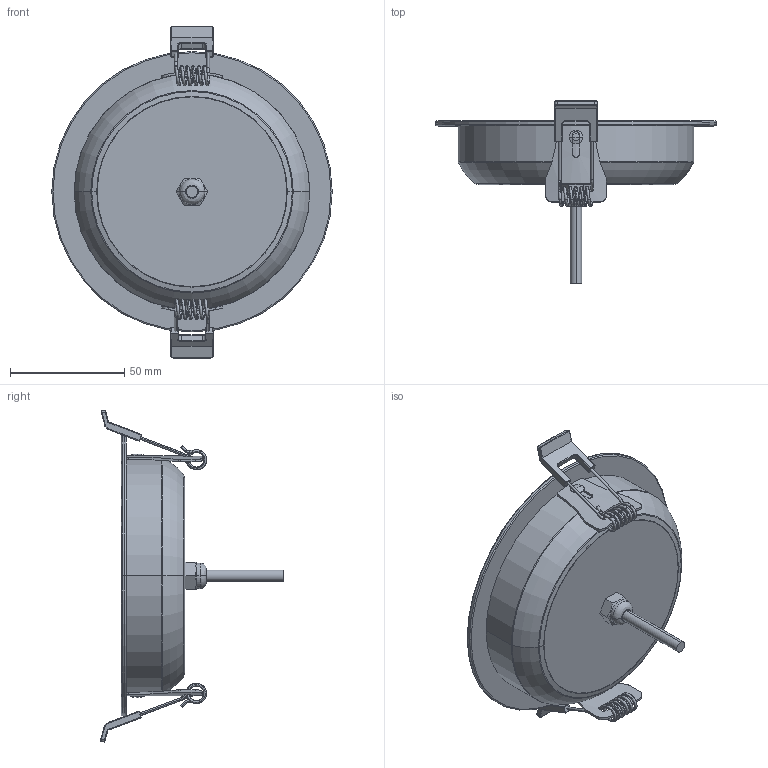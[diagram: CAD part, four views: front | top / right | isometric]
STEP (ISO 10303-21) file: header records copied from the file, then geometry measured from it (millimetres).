
FILE_DESCRIPTION((''),'2;1');
FILE_NAME('ASM0001_ASM','2026-06-25T14:52:02',('Administrator'),(''),'CREO PARAMETRIC BY PTC INC, 2021164','CREO PARAMETRIC BY PTC INC, 2021164','');
FILE_SCHEMA(('CONFIG_CONTROL_DESIGN','SHAPE_APPEARANCE_LAYERS_GROUPS'));
Length unit declared in the file: millimetre
Products named in the file (7): KL-CL-D120-15W; PRT0001; PRT0002; PRT0003; PRT0004; ASM0002_ASM; ASM0001_ASM
Assembly tree (9 placements, depth 3):
  ASM0001_ASM
    KL-CL-D120-15W
    PRT0001  x2
    PRT0002  x2
    ASM0002_ASM  x2
      PRT0003
      PRT0004
Bounding box: 122.9 x 80.25 x 145.54 mm (x, y, z)
Volume: 213668.4 mm3; surface area: 38779.6 mm2
Topology: 9 solids, 9 shells, 378 faces, 848 edges, 492 vertices
Faces by surface type: cylinder 130, bspline 116, plane 76, torus 48, cone 4, sphere 4
Entity records: 14379 total; most frequent: CARTESIAN_POINT 6853, DIRECTION 947, ORIENTED_EDGE 938, PRESENTATION_STYLE_ASSIGNMENT 683, STYLED_ITEM 682, CURVE_STYLE 469, EDGE_CURVE 469, AXIS2_PLACEMENT_3D 400
